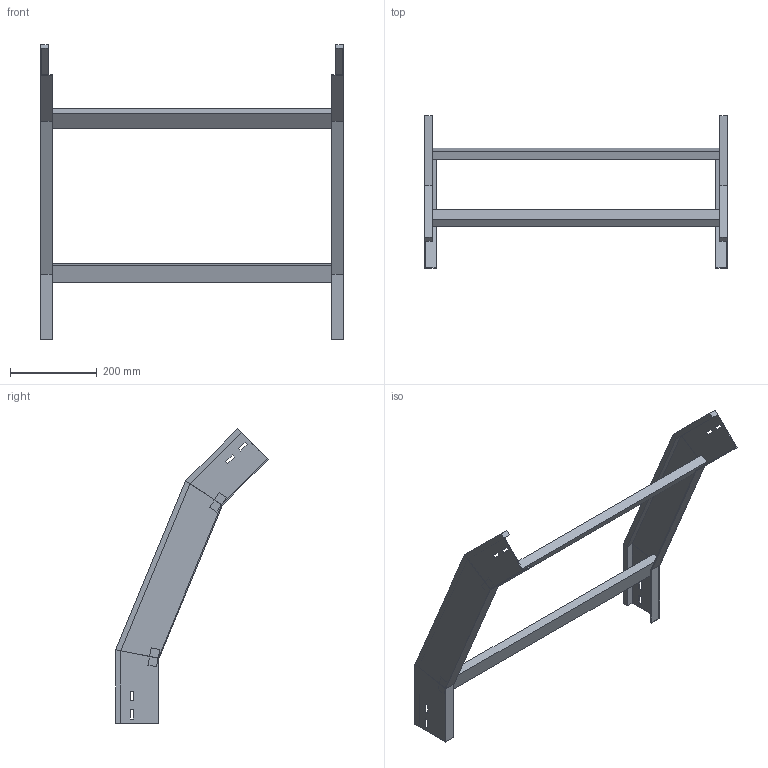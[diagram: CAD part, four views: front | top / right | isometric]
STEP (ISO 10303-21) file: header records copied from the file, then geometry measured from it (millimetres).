
FILE_DESCRIPTION (( 'STEP AP214' ), '1' );
FILE_NAME ('34B5D700.step', '2025-02-21T14:51:12', ( '' ), ( '' ), 'SwSTEP 2.0', 'SolidWorks 2023', '' );
FILE_SCHEMA (( 'AUTOMOTIVE_DESIGN' ));
Length unit declared in the file: millimetre
Products named in the file (3): TRAVERSINO_700; 34B5D700; LONGH.DISCESA_45°_H100_R500
Assembly tree (5 placements, depth 2):
  34B5D700
    LONGH.DISCESA_45°_H100_R500  x2
    TRAVERSINO_700  x3
Bounding box: 700 x 352.63 x 680.62 mm (x, y, z)
Volume: 2337300.3 mm3; surface area: 669513.4 mm2
Topology: 5 solids, 5 shells, 102 faces, 244 edges, 152 vertices
Faces by surface type: plane 102
Entity records: 1480 total; most frequent: CARTESIAN_POINT 244, ORIENTED_EDGE 232, DIRECTION 228, LINE 116, VECTOR 116, EDGE_CURVE 116, VERTEX_POINT 72, EDGE_LOOP 56
